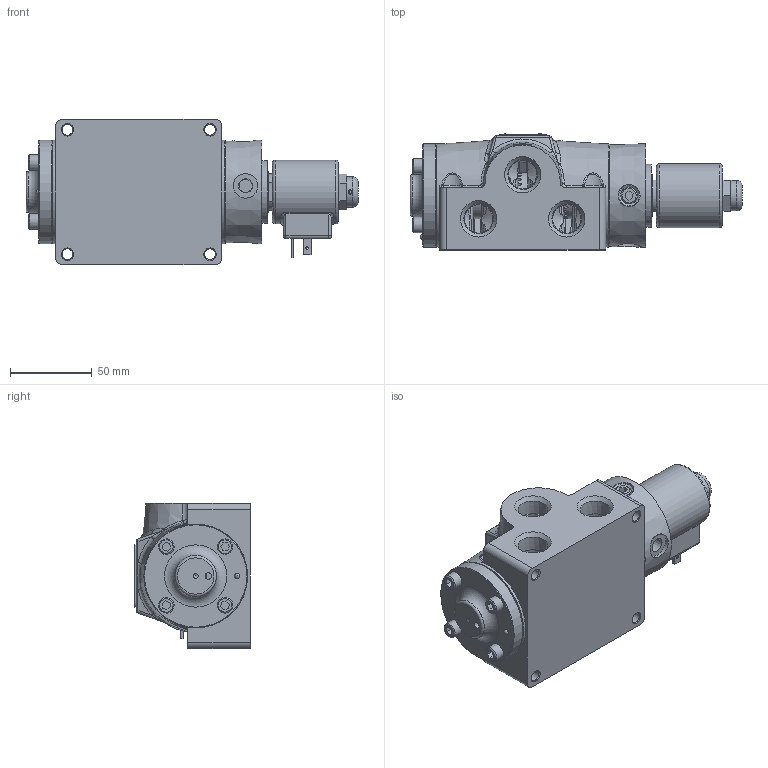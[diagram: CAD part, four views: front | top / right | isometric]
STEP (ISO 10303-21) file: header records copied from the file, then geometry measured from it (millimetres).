
FILE_DESCRIPTION(/* description */ (''),/* implementation_level */ '2;1');
FILE_NAME(/* name */ 'D:\Website Files\stp\Valves\Classic\SO\SO4EDL.stp',/* time_stamp */ '2015-12-18T09:16:41-05:00',/* author */ ('RMcKenna'),/* organization */ (''),/* preprocessor_version */ 'ST-DEVELOPER v15.6',/* originating_system */ 'Autodesk Inventor 2015',/* authorisation */ '');
FILE_SCHEMA (('AUTOMOTIVE_DESIGN { 1 0 10303 214 3 1 1 }'));
Products named in the file (1): Part41
Bounding box: 203.3 x 71.21 x 88.9 mm (x, y, z)
Volume: 574428.1 mm3; surface area: 127898.6 mm2
Topology: 1 solids, 25 shells, 1699 faces, 3996 edges, 2463 vertices
Faces by surface type: plane 581, cylinder 327, cone 321, bspline 317, torus 130, sphere 23
Full cylindrical faces by diameter (mm): 1.041 x1, 1.6 x3, 2.07 x2, 2.261 x2, 2.381 x3, 2.54 x1, 2.778 x2, 3.048 x3, 3.175 x5, 3.962 x1, 3.969 x1, 4.978 x8, 5.639 x1, 6.35 x8, 6.629 x4, 7.137 x4, 7.144 x8, 9.462 x2, 9.525 x10, 11.328 x2, 11.43 x1, 11.836 x1, 12.598 x1, 12.7 x1, 12.827 x2, 13.462 x1, 13.494 x1, 14.986 x1, 15.081 x1, 16.51 x1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
Entity records: 60277 total; most frequent: CARTESIAN_POINT 23893, ORIENTED_EDGE 7248, DIRECTION 6345, EDGE_CURVE 3624, AXIS2_PLACEMENT_3D 2472, VERTEX_POINT 2366, EDGE_LOOP 2148, FACE_OUTER_BOUND 1698
